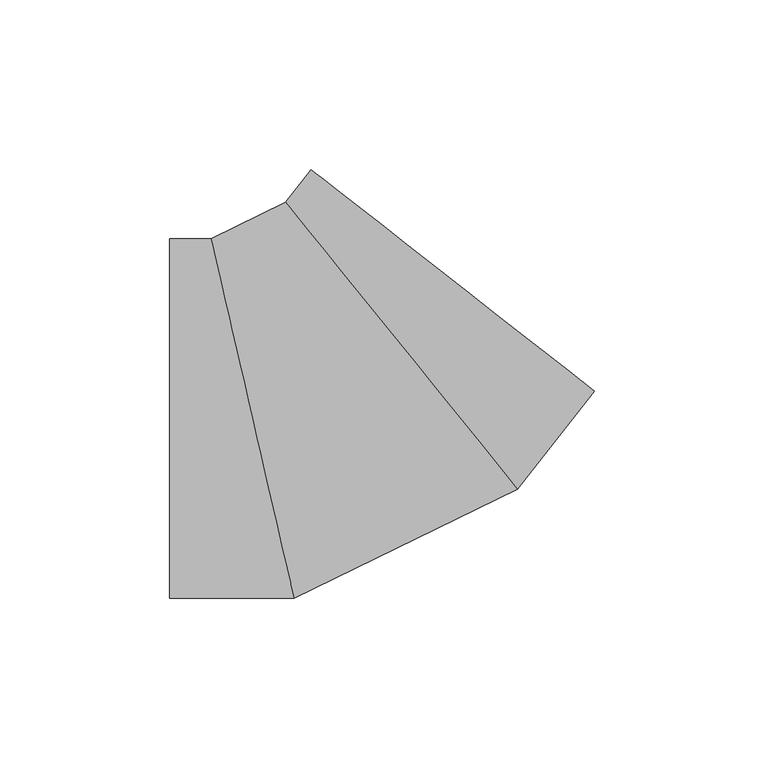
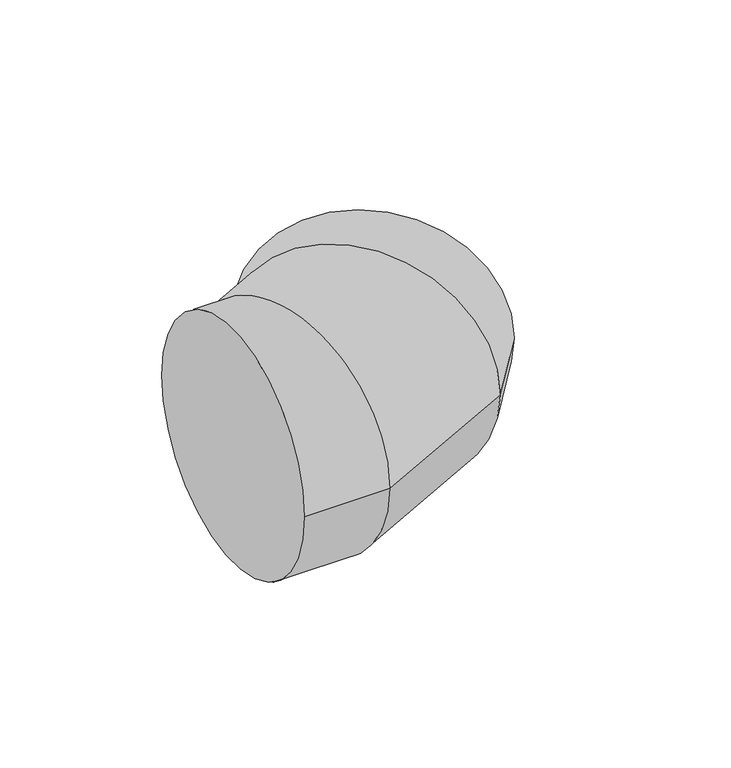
"""IFC4 building model written with IfcOpenShell, lengths in millimetres: duct fitting geometry, 17_Отвод_Заключение : 10_Отвод_3D объект."""

from ifc_helpers import new_model, si_unit, frame, origin, place, context, project, spatial, circle_curve, ellipse_curve, source, transform, mapped, element, save
from ifc_brep_helpers import plane_surface, cylinder_surface, advanced_brep


def duct_fitting_2eb66d24(model_context):
    return source(origin(), model_context, "Body", "AdvancedBrep", [
        advanced_brep(
        [(-51.6996544, -53.0, 0.0), (-51.6996544, 53.0, 0.0), (-14.991612, -53.0, 0.0), (-39.4636403, 53.0, 0.0), (50.9943279, -20.8165067, 0.0), (-17.468327, 63.7278311, 0.0), (73.5940554, 8.1098254, 0.0), (-9.9350844, 73.3699418, 0.0)],
        [
            (0, 1, circle_curve(frame((-51.6996544, 0.0, 0.0), z_axis=(-1.0, 0.0, 0.0), x_axis=(0.0, 1.0, 0.0)), 53.0)),
            (1, 0, circle_curve(frame((-51.6996544, 0.0, 0.0), z_axis=(-1.0, 0.0, 0.0), x_axis=(0.0, 1.0, 0.0)), 53.0)),
            (0, 2),
            (2, 3, ellipse_curve(frame((-27.2276261, 0.0, 0.0), z_axis=(-0.9743700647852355, -0.22495105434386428, 0.0), x_axis=(-0.22495105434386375, 0.9743700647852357, 0.0)), 54.3941177, 53.0)),
            (3, 1),
            (3, 2, ellipse_curve(frame((-27.2276261, 0.0, 0.0), z_axis=(-0.9743700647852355, -0.22495105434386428, 0.0), x_axis=(-0.22495105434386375, 0.9743700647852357, 0.0)), 54.3941177, 53.0)),
            (2, 4),
            (4, 5, ellipse_curve(frame((16.7630005, 21.4556622, 0.0), z_axis=(-0.7771459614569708, -0.6293203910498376, 0.0), x_axis=(-0.6293203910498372, 0.7771459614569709, 0.0)), 54.3941177, 53.0)),
            (5, 3),
            (5, 4, ellipse_curve(frame((16.7630005, 21.4556622, 0.0), z_axis=(-0.7771459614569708, -0.6293203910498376, 0.0), x_axis=(-0.6293203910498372, 0.7771459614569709, 0.0)), 54.3941177, 53.0)),
            (4, 6),
            (6, 7, circle_curve(frame((31.8294855, 40.7398836, 0.0), z_axis=(-0.6156614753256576, -0.7880107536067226, 0.0), x_axis=(-0.7880107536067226, 0.6156614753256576, 0.0)), 53.0)),
            (7, 5),
            (7, 6, circle_curve(frame((31.8294855, 40.7398836, 0.0), z_axis=(-0.6156614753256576, -0.7880107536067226, 0.0), x_axis=(-0.7880107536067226, 0.6156614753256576, 0.0)), 53.0)),
        ],
        [
            plane_surface(frame((-51.6996544, 0.0, 0.0), z_axis=(-1.0, 0.0, 0.0), x_axis=(0.0, 0.0, 1.0))),
            cylinder_surface(frame((-51.6996544, 0.0, 0.0), z_axis=(-1.0, 0.0, 0.0), x_axis=(0.0, 1.0, 0.0)), 53.0),
            cylinder_surface(frame((-27.2276261, 0.0, 0.0), z_axis=(-0.8987940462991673, -0.43837114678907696, 0.0), x_axis=(-0.43837114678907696, 0.8987940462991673, 0.0)), 53.0),
            cylinder_surface(frame((16.7630005, 21.4556622, 0.0), z_axis=(-0.6156614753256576, -0.7880107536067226, 0.0), x_axis=(-0.7880107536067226, 0.6156614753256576, 0.0)), 53.0),
            plane_surface(frame((31.8294855, 40.7398836, 0.0), z_axis=(0.6156614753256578, 0.7880107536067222, 0.0), x_axis=(0.0, 0.0, 1.0))),
        ],
        [
            (0, [[1, 2]]),
            (1, [[-1, 3, 4, 5]]),
            (1, [[-2, -5, 6, -3]]),
            (2, [[-4, 7, 8, 9]]),
            (2, [[-6, -9, 10, -7]]),
            (3, [[-8, 11, 12, 13]]),
            (3, [[-10, -13, 14, -11]]),
            (4, [[-14, -12]]),
        ],
    ),
    ])


if __name__ == "__main__":
    model = new_model("IFC4")
    model_context = context("Model", 3, world=origin())
    ifc_project = project(units=[si_unit("LENGTHUNIT", "METRE", prefix="MILLI")], contexts=[model_context])
    site = spatial("IfcSite", under=ifc_project)
    building = spatial("IfcBuilding", under=site)
    placement = place(None, origin())
    duct_fitting_shape = duct_fitting_2eb66d24(model_context)
    element("IfcDuctFitting", 1, ObjectType="17_Отвод_Заключение : 10_Отвод_3D объект", at=placement, inside=building, context=model_context, shape_type="MappedRepresentation", body=[
        mapped(duct_fitting_shape, transform((0.0, 0.0, 0.0), x_axis=(1.0, 0.0, 0.0), y_axis=(0.0, 1.0, 0.0), z_axis=(0.0, 0.0, 1.0))),
    ])
    save(model, "model.ifc")
